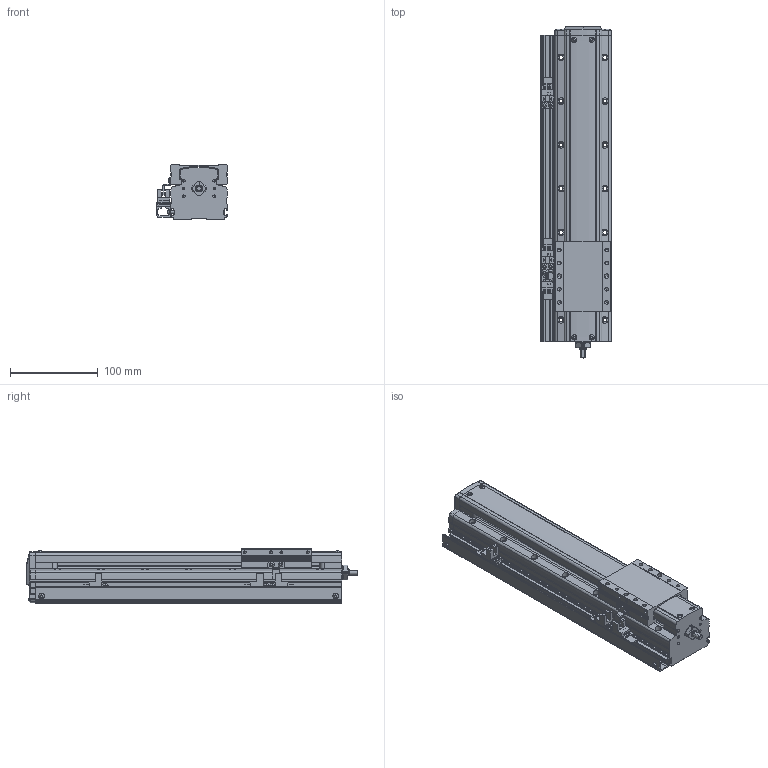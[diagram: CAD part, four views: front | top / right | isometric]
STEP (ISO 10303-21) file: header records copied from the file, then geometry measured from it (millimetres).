
FILE_DESCRIPTION(('STEP AP214'),'1');
FILE_NAME('Z:/Web/3D/PSA65/STP/PSA65-200 (3D)/PSA65ㅁㅁ-200+3SL.stp','2014-06-25T03:22:09',(' '),(' '),'Spatial InterOp 3D',' ',' ');
FILE_SCHEMA(('automotive_design'));
Length unit declared in the file: millimetre
Products named in the file (62): SLIDE; RRCV-PA060; 1; 2; 3; 4; 5; 6; 7; 8; 9; 10; 11; 12; 13; 14; 15; 16; 17; 18; 19; 20; 21; 22; 23; 24; 25; 26; 27; 28; 29; 30; 31; 스크루 : Round - M3.0 x 8.0; RN8 x 0.75; SHAFT-SAN65; BASE; 스크루 : Round - M3.0 x 6.0; EE-SX674; SBK-SX674-352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
Bounding box: 81 x 379.3 x 62 mm (x, y, z)
Volume: 1177495.2 mm3; surface area: 213746 mm2
Topology: 62 solids, 62 shells, 2105 faces, 5577 edges, 3594 vertices
Faces by surface type: plane 1338, cylinder 523, cone 171, sphere 42, torus 16, bspline 15
Entity records: 83451 total; most frequent: CARTESIAN_POINT 12735, DIRECTION 11120, ORIENTED_EDGE 10950, EDGE_CURVE 5475, LINE 3962, VECTOR 3962, VERTEX_POINT 3594, AXIS2_PLACEMENT_3D 3579
